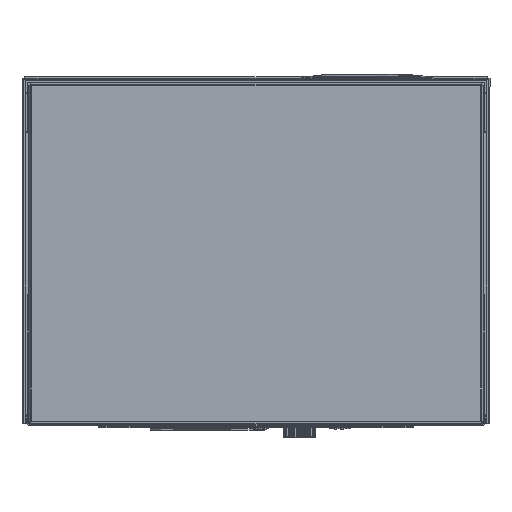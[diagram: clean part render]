
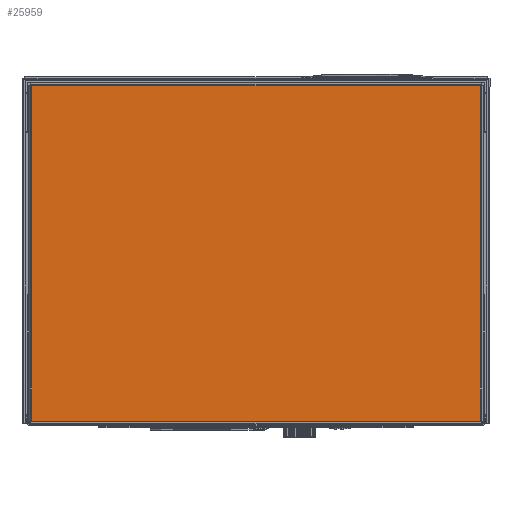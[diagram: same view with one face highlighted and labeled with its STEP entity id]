
A CAD part, front view. The second image highlights one B-rep face of the part: STEP entity #25959.
In plain terms, the highlighted planar face has unit normal (0, -1, 0).
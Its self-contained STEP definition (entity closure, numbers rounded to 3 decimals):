
#4531 = VECTOR ( 'NONE', #62016, 1000. ) ;
#24085 = EDGE_CURVE ( 'NONE', #193254, #122521, #207709, .T. ) ;
#25959 = ADVANCED_FACE ( 'NONE', ( #59682 ), #120577, .F. ) ;
#37239 = LINE ( 'NONE', #46991, #189612 ) ;
#37797 = CARTESIAN_POINT ( 'NONE',  ( 197., -1325.388, 297.835 ) ) ;
#46400 = ORIENTED_EDGE ( 'NONE', *, *, #101371, .T. ) ;
#46991 = CARTESIAN_POINT ( 'NONE',  ( 196.206, -1325.388, 4.471 ) ) ;
#50419 = VECTOR ( 'NONE', #235470, 1000. ) ;
#59682 = FACE_OUTER_BOUND ( 'NONE', #131299, .T. ) ;
#62016 = DIRECTION ( 'NONE',  ( -1., 0., 0. ) ) ;
#65510 = CARTESIAN_POINT ( 'NONE',  ( -196.206, -1325.388, 4.471 ) ) ;
#66153 = DIRECTION ( 'NONE',  ( 0., 0., 1. ) ) ;
#83043 = CARTESIAN_POINT ( 'NONE',  ( 197., -1325.388, 300.153 ) ) ;
#92614 = VERTEX_POINT ( 'NONE', #240339 ) ;
#92786 = LINE ( 'NONE', #128469, #137648 ) ;
#99085 = EDGE_CURVE ( 'NONE', #193254, #92614, #37239, .T. ) ;
#101371 = EDGE_CURVE ( 'NONE', #92614, #222209, #152064, .T. ) ;
#102196 = DIRECTION ( 'NONE',  ( 1., 0., 0. ) ) ;
#116321 = ORIENTED_EDGE ( 'NONE', *, *, #153446, .T. ) ;
#120577 = PLANE ( 'NONE',  #218404 ) ;
#122521 = VERTEX_POINT ( 'NONE', #65510 ) ;
#128469 = CARTESIAN_POINT ( 'NONE',  ( -196.206, -1325.388, 297.835 ) ) ;
#131299 = EDGE_LOOP ( 'NONE', ( #116321, #238859, #183051, #46400 ) ) ;
#137648 = VECTOR ( 'NONE', #147748, 1000. ) ;
#147748 = DIRECTION ( 'NONE',  ( 0., 0., -1. ) ) ;
#152064 = LINE ( 'NONE', #37797, #50419 ) ;
#153446 = EDGE_CURVE ( 'NONE', #222209, #122521, #92786, .T. ) ;
#157208 = CARTESIAN_POINT ( 'NONE',  ( 197., -1325.388, 4.471 ) ) ;
#179833 = CARTESIAN_POINT ( 'NONE',  ( 196.206, -1325.388, 4.471 ) ) ;
#183051 = ORIENTED_EDGE ( 'NONE', *, *, #99085, .T. ) ;
#189612 = VECTOR ( 'NONE', #66153, 1000. ) ;
#193254 = VERTEX_POINT ( 'NONE', #179833 ) ;
#207709 = LINE ( 'NONE', #157208, #4531 ) ;
#214346 = CARTESIAN_POINT ( 'NONE',  ( -196.206, -1325.388, 297.835 ) ) ;
#216525 = DIRECTION ( 'NONE',  ( 0., 1., 0. ) ) ;
#218404 = AXIS2_PLACEMENT_3D ( 'NONE', #83043, #216525, #102196 ) ;
#222209 = VERTEX_POINT ( 'NONE', #214346 ) ;
#235470 = DIRECTION ( 'NONE',  ( -1., 0., 0. ) ) ;
#238859 = ORIENTED_EDGE ( 'NONE', *, *, #24085, .F. ) ;
#240339 = CARTESIAN_POINT ( 'NONE',  ( 196.206, -1325.388, 297.835 ) ) ;
